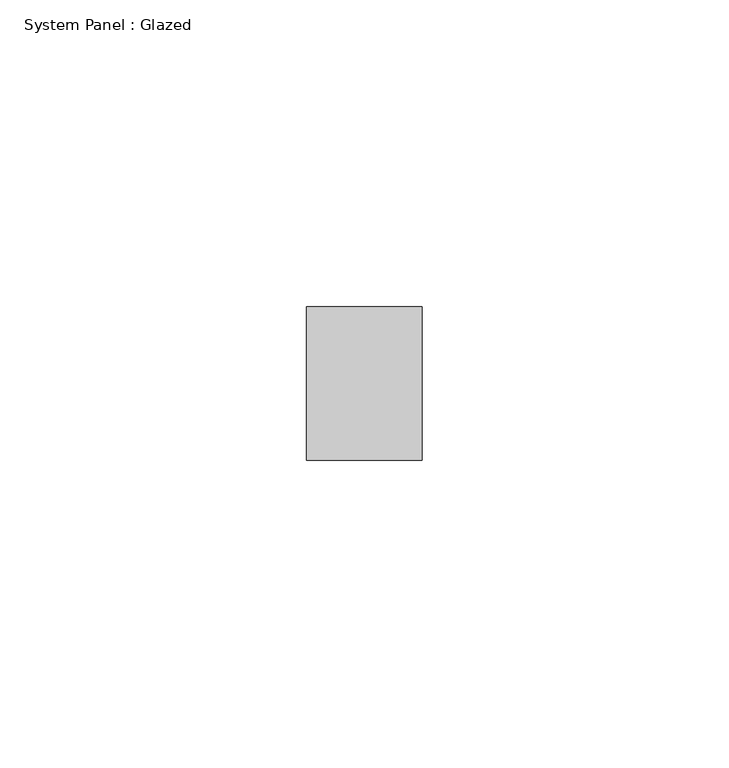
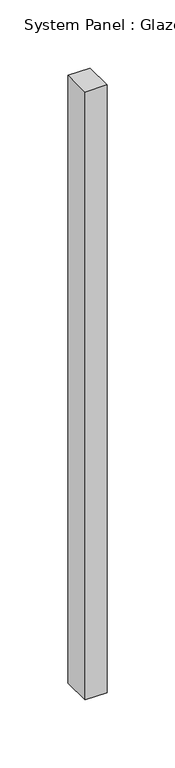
"""IFC4 building model written with IfcOpenShell, lengths in millimetres: plate geometry, System Panel : Glazed."""

from ifc_helpers import new_model, si_unit, origin, origin_with_axes, place, context, project, spatial, polyline, outline, extrude, source, transform, mapped, element, save


def system_panel_glazed_d1b73f3c(model_context):
    return source(origin(), model_context, "Body", "SweptSolid", [
        extrude(outline(polyline([(9.4081169, -12.5), (-9.4081169, -12.5), (-9.4081169, 12.5), (9.4081169, 12.5), (9.4081169, -12.5)])), origin_with_axes(), (0.0, 0.0, 1.0), 544.6621432),
    ])


if __name__ == "__main__":
    model = new_model("IFC4")
    model_context = context("Model", 3, world=origin())
    ifc_project = project(units=[si_unit("LENGTHUNIT", "METRE", prefix="MILLI")], contexts=[model_context])
    site = spatial("IfcSite", under=ifc_project)
    building = spatial("IfcBuilding", under=site)
    placement = place(None, origin())
    system_panel_glazed_shape = system_panel_glazed_d1b73f3c(model_context)
    element("IfcPlate", 1, ObjectType="System Panel : Glazed", at=placement, inside=building, context=model_context, shape_type="MappedRepresentation", body=[
        mapped(system_panel_glazed_shape, transform((0.0, 0.0, 0.0), x_axis=(1.0, 0.0, 0.0), y_axis=(0.0, 1.0, 0.0), z_axis=(0.0, 0.0, 1.0))),
    ])
    save(model, "model.ifc")
